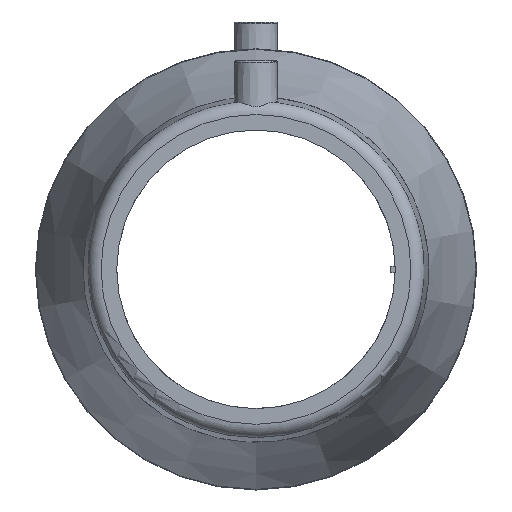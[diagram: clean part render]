
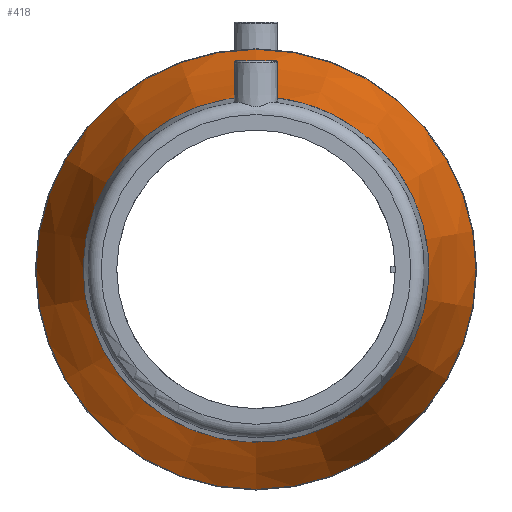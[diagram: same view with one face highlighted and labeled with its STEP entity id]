
A CAD part, left-side view. The second image highlights one B-rep face of the part: STEP entity #418.
In plain terms, the highlighted conical face has half-angle 17.307 degrees and reference radius 99 mm.
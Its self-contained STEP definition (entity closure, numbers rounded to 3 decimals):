
#77=CIRCLE('',#475,77.5);
#78=CIRCLE('',#476,98.728);
#113=ORIENTED_EDGE('',*,*,#201,.F.);
#114=ORIENTED_EDGE('',*,*,#202,.T.);
#201=EDGE_CURVE('',#245,#245,#77,.T.);
#202=EDGE_CURVE('',#246,#246,#78,.T.);
#245=VERTEX_POINT('',#730);
#246=VERTEX_POINT('',#732);
#287=EDGE_LOOP('',(#113));
#288=EDGE_LOOP('',(#114));
#352=FACE_BOUND('',#287,.T.);
#353=FACE_BOUND('',#288,.T.);
#409=CONICAL_SURFACE('',#474,99.,0.302);
#418=ADVANCED_FACE('',(#352,#353),#409,.T.);
#474=AXIS2_PLACEMENT_3D('',#728,#554,#555);
#475=AXIS2_PLACEMENT_3D('',#729,#556,#557);
#476=AXIS2_PLACEMENT_3D('',#731,#558,#559);
#554=DIRECTION('',(1.,0.,0.));
#555=DIRECTION('',(0.,0.,-1.));
#556=DIRECTION('',(-1.,0.,0.));
#557=DIRECTION('',(0.,0.,1.));
#558=DIRECTION('',(-1.,0.,0.));
#559=DIRECTION('',(0.,0.,1.));
#728=CARTESIAN_POINT('',(34.5,0.,0.));
#729=CARTESIAN_POINT('',(-34.5,0.,0.));
#730=CARTESIAN_POINT('',(-34.5,0.,77.5));
#731=CARTESIAN_POINT('',(33.628,0.,0.));
#732=CARTESIAN_POINT('',(33.628,0.,98.728));
